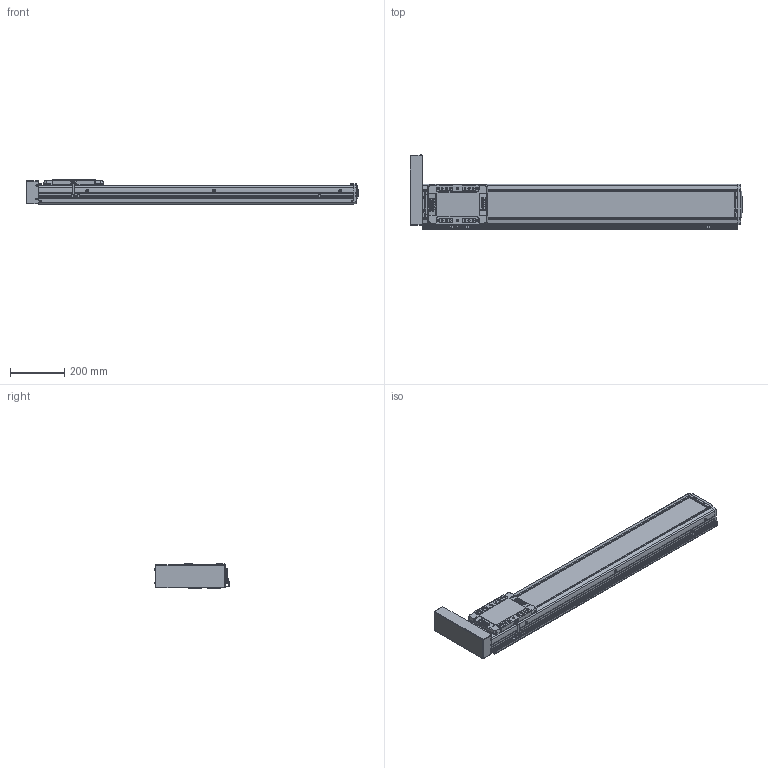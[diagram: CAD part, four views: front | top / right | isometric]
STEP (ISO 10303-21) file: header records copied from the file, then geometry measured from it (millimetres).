
FILE_DESCRIPTION(('STEP AP214'),'1');
FILE_NAME('Z:/Web/3D/SAN150/2013.04 (STP.)/SAN150ㅁㅁ-900PL+3SR.stp','2013-05-07T10:44:06',(' '),(' '),'Spatial InterOp 3D',' ',' ');
FILE_SCHEMA(('automotive_design'));
Length unit declared in the file: millimetre
Products named in the file (60): SLBL-SAN150; SLCV-SAN150; FHCS M4.0 x 8.0; BHCS M4.0 x 10.0; SFX-SAN150; RRCV-SAN150; FRBL-SAN150; Spacer; RN15; FRCV-SAN150; Screw 20; BASE-SAN150-000L ; SUS COVER; 스크루 : Round - M5.0 x 6.0; BHCS M3.0 x 6.0; P; M3.0 x 6.0; SRL-16x17-360L; SGD-SAN150; EE-SX674; SBK-SX674-352; 스크루 : Round - M3.0 x 6.0
Bounding box: 1220 x 273.36 x 90 mm (x, y, z)
Volume: 7439790.2 mm3; surface area: 1398878.8 mm2
Topology: 60 solids, 60 shells, 2760 faces, 7093 edges, 4546 vertices
Faces by surface type: plane 1422, cylinder 911, cone 310, sphere 84, bspline 21, torus 12
Entity records: 109384 total; most frequent: CARTESIAN_POINT 17549, DIRECTION 15028, ORIENTED_EDGE 13922, EDGE_CURVE 6961, AXIS2_PLACEMENT_3D 5372, VERTEX_POINT 4546, LINE 4284, VECTOR 4284
